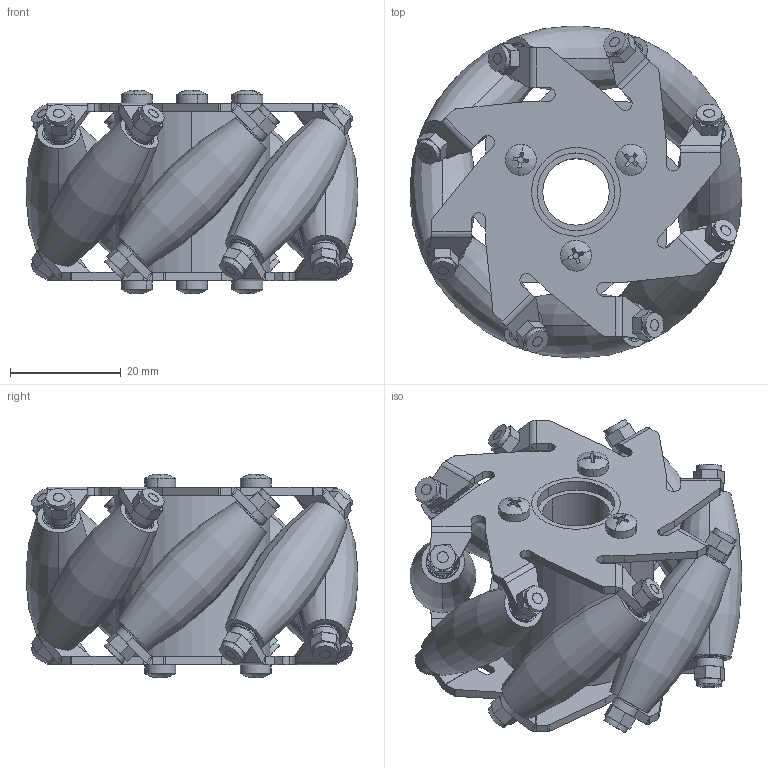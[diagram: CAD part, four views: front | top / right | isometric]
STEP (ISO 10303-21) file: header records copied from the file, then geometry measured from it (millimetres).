
FILE_DESCRIPTION(('Open CASCADE Model'),'2;1');
FILE_NAME('Open CASCADE Shape Model','2026-10-14T10:49:51',('Author'),( 'Open CASCADE'),'Open CASCADE STEP processor 7.7','Open CASCADE 7.7' ,'Unknown');
FILE_SCHEMA(('AUTOMOTIVE_DESIGN { 1 0 10303 214 1 1 1 1 }'));
Length unit declared in the file: millimetre
Products named in the file (244): Open CASCADE STEP translator 7.7 2; Open CASCADE STEP translator 7.7 2.1; Open CASCADE STEP translator 7.7 2.2; Open CASCADE STEP translator 7.7 2.3; Open CASCADE STEP translator 7.7 2.3.1; Open CASCADE STEP translator 7.7 2.3.2; Open CASCADE STEP translator 7.7 2.3.3; Open CASCADE STEP translator 7.7 2.3.4; Open CASCADE STEP translator 7.7 2.4; Open CASCADE STEP translator 7.7 2.5; Open CASCADE STEP translator 7.7 2.6; Open CASCADE STEP translator 7.7 2.7; Open CASCADE STEP translator 7.7 2.7.1; Open CASCADE STEP translator 7.7 2.7.2; Open CASCADE STEP translator 7.7 2.7.3; Open CASCADE STEP translator 7.7 2.7.4; Open CASCADE STEP translator 7.7 2.7.5; Open CASCADE STEP translator 7.7 2.7.5.1; Open CASCADE STEP translator 7.7 2.7.5.2; Open CASCADE STEP translator 7.7 2.7.5.3; Open CASCADE STEP translator 7.7 2.7.5.4; Open CASCADE STEP translator 7.7 2.7.5.5; Open CASCADE STEP translator 7.7 2.7.5.6; Open CASCADE STEP translator 7.7 2.7.5.7; Open CASCADE STEP translator 7.7 2.7.5.8; Open CASCADE STEP translator 7.7 2.7.5.9; Open CASCADE STEP translator 7.7 2.7.5.10; Open CASCADE STEP translator 7.7 2.7.6; Open CASCADE STEP translator 7.7 2.7.6.1; Open CASCADE STEP translator 7.7 2.7.6.2; Open CASCADE STEP translator 7.7 2.7.6.3; Open CASCADE STEP translator 7.7 2.7.6.4; Open CASCADE STEP translator 7.7 2.7.6.5; Open CASCADE STEP translator 7.7 2.7.6.6; Open CASCADE STEP translator 7.7 2.7.6.7; Open CASCADE STEP translator 7.7 2.7.6.8; Open CASCADE STEP translator 7.7 2.7.6.9; Open CASCADE STEP translator 7.7 2.7.6.10; Open CASCADE STEP translator 7.7 2.8; Open CASCADE STEP translator 7.7 2.8.1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
Assembly tree (243 placements, depth 4):
  Open CASCADE STEP translator 7.7 2
    Open CASCADE STEP translator 7.7 2.1
    Open CASCADE STEP translator 7.7 2.2
    Open CASCADE STEP translator 7.7 2.3
      Open CASCADE STEP translator 7.7 2.3.1
      Open CASCADE STEP translator 7.7 2.3.2
      Open CASCADE STEP translator 7.7 2.3.3
      Open CASCADE STEP translator 7.7 2.3.4
    Open CASCADE STEP translator 7.7 2.4
    Open CASCADE STEP translator 7.7 2.5
    Open CASCADE STEP translator 7.7 2.6
    Open CASCADE STEP translator 7.7 2.7
      Open CASCADE STEP translator 7.7 2.7.1
      Open CASCADE STEP translator 7.7 2.7.2
      Open CASCADE STEP translator 7.7 2.7.3
      Open CASCADE STEP translator 7.7 2.7.4
      Open CASCADE STEP translator 7.7 2.7.5
        Open CASCADE STEP translator 7.7 2.7.5.1
        Open CASCADE STEP translator 7.7 2.7.5.2
        Open CASCADE STEP translator 7.7 2.7.5.3
        Open CASCADE STEP translator 7.7 2.7.5.4
        Open CASCADE STEP translator 7.7 2.7.5.5
        Open CASCADE STEP translator 7.7 2.7.5.6
        Open CASCADE STEP translator 7.7 2.7.5.7
        Open CASCADE STEP translator 7.7 2.7.5.8
        Open CASCADE STEP translator 7.7 2.7.5.9
        Open CASCADE STEP translator 7.7 2.7.5.10
      Open CASCADE STEP translator 7.7 2.7.6
        Open CASCADE STEP translator 7.7 2.7.6.1
        Open CASCADE STEP translator 7.7 2.7.6.2
        Open CASCADE STEP translator 7.7 2.7.6.3
        Open CASCADE STEP translator 7.7 2.7.6.4
        Open CASCADE STEP translator 7.7 2.7.6.5
        Open CASCADE STEP translator 7.7 2.7.6.6
        Open CASCADE STEP translator 7.7 2.7.6.7
        Open CASCADE STEP translator 7.7 2.7.6.8
        Open CASCADE STEP translator 7.7 2.7.6.9
        Open CASCADE STEP translator 7.7 2.7.6.10
    Open CASCADE STEP translator 7.7 2.8
      Open CASCADE STEP translator 7.7 2.8.1
      Open CASCADE STEP translator 7.7 2.8.2
      Open CASCADE STEP translator 7.7 2.8.3
      Open CASCADE STEP translator 7.7 2.8.4
      Open CASCADE STEP translator 7.7 2.8.5
        Open CASCADE STEP translator 7.7 2.8.5.1
        Open CASCADE STEP translator 7.7 2.8.5.2
        Open CASCADE STEP translator 7.7 2.8.5.3
        Open CASCADE STEP translator 7.7 2.8.5.4
        Open CASCADE STEP translator 7.7 2.8.5.5
        Open CASCADE STEP translator 7.7 2.8.5.6
        Open CASCADE STEP translator 7.7 2.8.5.7
        Open CASCADE STEP translator 7.7 2.8.5.8
        Open CASCADE STEP translator 7.7 2.8.5.9
        Open CASCADE STEP translator 7.7 2.8.5.10
      Open CASCADE STEP translator 7.7 2.8.6
        Open CASCADE STEP translator 7.7 2.8.6.1
        Open CASCADE STEP translator 7.7 2.8.6.2
        Open CASCADE STEP translator 7.7 2.8.6.3
        Open CASCADE STEP translator 7.7 2.8.6.4
        Open CASCADE STEP translator 7.7 2.8.6.5
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Bounding box: 59.82 x 59.82 x 36.74 mm (x, y, z)
Volume: 41121.4 mm3; surface area: 34188.9 mm2
Topology: 217 solids, 217 shells, 1922 faces, 4594 edges, 2924 vertices
Faces by surface type: cylinder 674, plane 596, torus 352, sphere 268, bspline 16, revolution 16
Entity records: 132564 total; most frequent: CARTESIAN_POINT 39424, DIRECTION 17946, ORIENTED_EDGE 8676, PCURVE 8676, DEFINITIONAL_REPRESENTATION 8676, LINE 8114, VECTOR 8114, AXIS2_PLACEMENT_3D 4638
